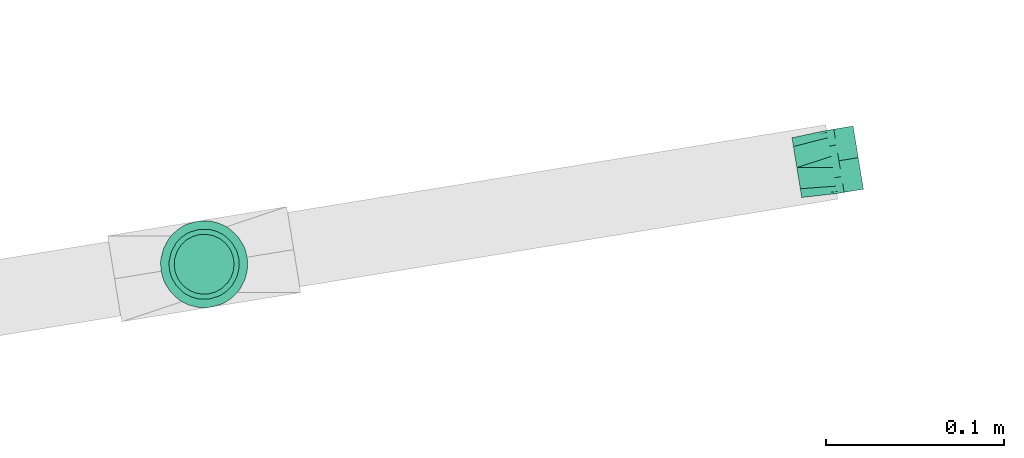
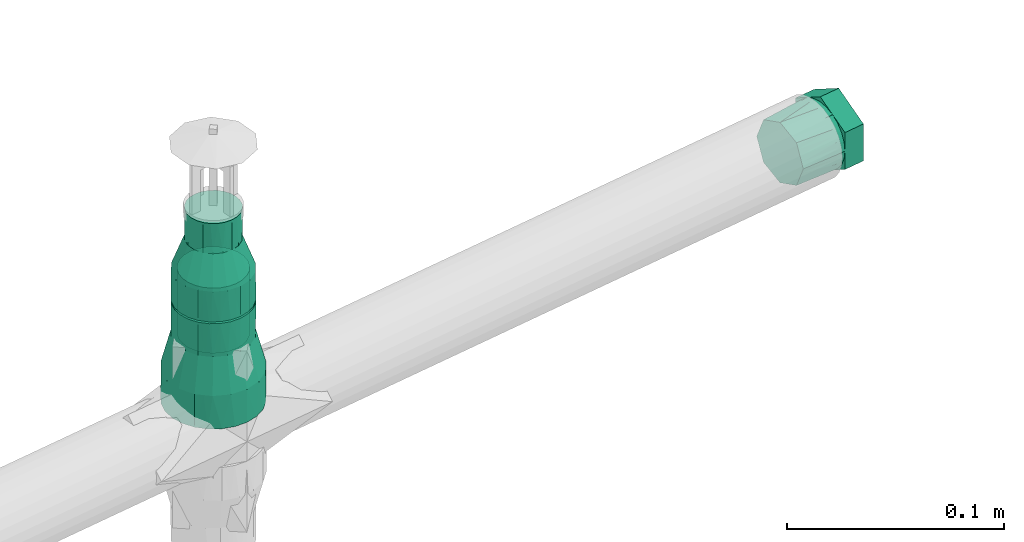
# One storey, part 39 of 46: 3 flow fittings, 1 flow segment.
"""IFC2X3 building model written with IfcOpenShell, lengths in millimetres."""

from ifc_helpers import new_model, entity, si_unit, converted_unit, derived_unit, direction, frame, origin, origin_with_axes, origin_2d_with_axis, place, context, subcontext, project, spatial, circle, extrude, faceted_brep, source, transform, mapped, material, type_object, element, save


model = new_model("IFC2X3")

# Units and contexts
model_context = context("Model", 3, precision=0.01, world=origin(), true_north=direction((6.12323399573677e-17, 1.0)))
plan_context = context("Plan", 3, precision=1e-05, world=origin_with_axes())
body_context = subcontext(model_context, "Body", "Model", "MODEL_VIEW")
ifc_project = project(units=[converted_unit("PLANEANGLEUNIT", "DEGREE", entity("IfcPositiveLengthMeasure", 0.0174532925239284), si_unit("PLANEANGLEUNIT", "RADIAN"), dimensions=[0, 0, 0, 0, 0, 0, 0]), si_unit("AREAUNIT", "SQUARE_METRE"), si_unit("LENGTHUNIT", "METRE", prefix="MILLI"), si_unit("MASSUNIT", "GRAM", prefix="KILO"), si_unit("POWERUNIT", "WATT"), si_unit("PRESSUREUNIT", "PASCAL", prefix="KILO"), si_unit("FORCEUNIT", "NEWTON", prefix="KILO"), si_unit("ELECTRICVOLTAGEUNIT", "VOLT"), si_unit("ELECTRICCURRENTUNIT", "AMPERE"), si_unit("THERMODYNAMICTEMPERATUREUNIT", "DEGREE_CELSIUS"), si_unit("TIMEUNIT", "SECOND"), si_unit("VOLUMEUNIT", "CUBIC_METRE"), derived_unit("LINEARVELOCITYUNIT", [(si_unit("LENGTHUNIT", "METRE"), 1), (si_unit("TIMEUNIT", "SECOND"), -1)]), derived_unit("VOLUMETRICFLOWRATEUNIT", [(si_unit("VOLUMEUNIT", "CUBIC_METRE"), 1), (si_unit("TIMEUNIT", "SECOND"), -1)]), derived_unit("THERMALTRANSMITTANCEUNIT", [(si_unit("POWERUNIT", "WATT"), 1), (si_unit("THERMODYNAMICTEMPERATUREUNIT", "KELVIN"), -1), (si_unit("AREAUNIT", "SQUARE_METRE"), -1)]), derived_unit("SOUNDPRESSUREUNIT", [(si_unit("PRESSUREUNIT", "PASCAL"), 1)])], contexts=[model_context, plan_context])

# Site, building, storey
site_placement = place(None, frame((-3.09682673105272e-06, 1.93776733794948e-05, 0.0), z_axis=(0.0, 0.0, 1.0), x_axis=(-0.160806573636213, 0.986985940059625, 0.0)))
site = spatial("IfcSite", under=ifc_project, at=site_placement, Name="Default", CompositionType="ELEMENT")
building_placement = place(site_placement, frame((0.0, 0.0, 0.0), z_axis=(0.0, 0.0, 1.0), x_axis=(1.0, -2.77555756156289e-17, 0.0)))
building = spatial("IfcBuilding", under=site, at=building_placement, Name="Bygning (endres i Project Information)", CompositionType="ELEMENT")
storey_placement = place(building_placement, frame((0.0, 0.0, 51360.0000000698), z_axis=(0.0, 0.0, 1.0), x_axis=(1.0, -2.77555756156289e-17, 0.0)))
storey = spatial("IfcBuildingStorey", under=building, at=storey_placement, Name="H01-Nivå D+0,36", CompositionType="ELEMENT", Elevation=51360.0000000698)

# Flow fittings
ifc_material = material(Name="3320.001")
pipe_fitting_type_1 = type_object("IfcPipeFittingType", Name="RS_53_PIF_UN_Reducing-Socket-EN10241_MC_gen:RS_53_PIF_UN_Reducing-Socket-EN10241_MC_gen", PredefinedType="NOTDEFINED", material=ifc_material)
shared_shape_1 = source(origin(), body_context, "Body", "Brep", [
    faceted_brep([(0.0, 0.0, 24.5), (0.0, 6.34106660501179, 23.6651827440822), (0.0, 12.25, 21.2176223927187), (0.0, 17.3241161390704, 17.3241161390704), (0.0, 21.2176223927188, 12.25), (0.0, 23.6651827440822, 6.34106660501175), (0.0, 24.5, 0.0), (0.0, 23.6651827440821, -6.34106660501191), (0.0, 21.2176223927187, -12.2500000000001), (0.0, 17.3241161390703, -17.3241161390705), (0.0, 12.2499999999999, -21.2176223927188), (0.0, 6.34106660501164, -23.6651827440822), (0.0, 0.0, -24.5), (0.0, -6.34106660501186, -23.6651827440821), (0.0, -12.2500000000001, -21.2176223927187), (0.0, -17.3241161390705, -17.3241161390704), (0.0, -21.2176223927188, -12.2499999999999), (0.0, -23.6651827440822, -6.34106660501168), (0.0, -24.5, 0.0), (0.0, -23.6651827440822, 6.34106660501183), (0.0, -21.2176223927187, 12.2500000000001), (0.0, -17.3241161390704, 17.3241161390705), (0.0, -12.25, 21.2176223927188), (0.0, -6.34106660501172, 23.6651827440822), (18.6666666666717, -8.25137606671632, -22.6729794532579), (18.6666666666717, -18.7677686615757, -15.7486780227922), (18.6666666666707, -20.8950763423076, -12.0642027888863), (18.6666666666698, -23.0223840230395, -8.37972755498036), (18.6666666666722, -12.2493529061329, -21.2179959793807), (18.6666666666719, -15.5085607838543, -18.4833370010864), (18.6666666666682, -23.7125607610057, -4.46565710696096), (18.6666666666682, -23.7611920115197, -4.18986377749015), (18.6666666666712, -4.25339922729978, -24.1279629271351), (18.6666666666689, 4.25560674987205, -24.1275736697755), (18.6666666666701, 0.00110376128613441, -24.1277682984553), (18.6666666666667, -24.5, 0.0), (18.6666666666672, 8.25345045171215, -22.6722244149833), (18.6666666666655, 12.2512941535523, -21.2168751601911), (18.6666666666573, 23.0231506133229, -8.37762113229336), (18.6666666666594, 20.8961800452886, -12.062290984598), (18.6666666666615, 18.7692094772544, -15.7469608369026), (18.6666666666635, 15.5102518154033, -18.4819179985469), (18.6666666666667, 24.5, 0.0), (18.6666666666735, 18.7692094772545, 15.7469608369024), (18.666666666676, 20.8961800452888, 12.0622909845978), (18.6666666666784, 23.023150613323, 8.3776211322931), (18.6666666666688, 12.2512941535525, 21.216875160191), (18.6666666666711, 15.5102518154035, 18.4819179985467), (18.6666666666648, 4.25560674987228, 24.1275736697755), (18.6666666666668, 8.25345045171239, 22.6722244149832), (18.6666666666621, -4.25339922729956, 24.1279629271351), (18.6666666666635, 0.00110376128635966, 24.1277682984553), (18.6666666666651, -23.7611920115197, 4.1898637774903), (18.6666666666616, -8.25137606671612, 22.672979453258), (18.666666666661, -12.2493529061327, 21.2179959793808), (18.6666666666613, -15.5085607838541, 18.4833370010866), (18.6666666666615, -18.7677686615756, 15.7486780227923), (18.6666666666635, -23.0223840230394, 8.37972755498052), (18.6666666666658, -23.7125607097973, 4.46565739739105), (18.6666666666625, -20.8950763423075, 12.0642027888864), (37.3333333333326, 19.750000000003, 0.0), (37.3333333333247, 18.5595959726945, -6.75306577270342), (37.3333333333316, 9.87626627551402, -17.1032705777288), (37.3333333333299, 12.5033702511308, -14.8985095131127), (37.3333333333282, 15.1304742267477, -12.6937484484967), (37.3333333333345, 3.43075149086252, -19.4497414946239), (37.333333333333, 6.65350888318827, -18.2765060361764), (37.3333333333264, 16.8450350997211, -9.72340711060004), (37.3333333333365, -3.42859151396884, -19.4501223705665), (37.3333333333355, 0.00107998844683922, -19.4499319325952), (37.3333333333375, -9.87436684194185, -17.1043672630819), (37.333333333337, -6.65147917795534, -18.2772448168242), (37.3333333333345, -19.1544229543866, -3.37756341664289), (37.3333333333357, -18.558845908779, -6.75512683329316), (37.3333333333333, -19.7499999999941, 0.0), (37.3333333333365, -16.8439551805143, -9.72527774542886), (37.3333333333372, -15.1290644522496, -12.6954286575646), (37.3333333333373, -12.5017156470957, -14.8998979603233), (37.3333333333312, -18.5588459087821, 6.755126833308), (37.3333333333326, -19.1544229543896, 3.37756341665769), (37.3333333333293, -15.1290644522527, 12.6954286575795), (37.3333333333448, 18.559595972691, 6.75306577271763), (37.3333333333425, 16.8450350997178, 9.72340711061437), (37.3333333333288, -9.87436684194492, 17.104367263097), (37.3333333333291, -12.5017156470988, 14.8998979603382), (37.3333333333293, -6.65147917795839, 18.2772448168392), (37.3333333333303, -16.8439551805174, 9.72527774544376), (37.333333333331, 0.00107998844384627, 19.4499319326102), (37.3333333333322, 3.43075149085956, 19.4497414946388), (37.3333333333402, 15.1304742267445, 12.6937484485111), (37.333333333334, 6.65350888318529, 18.2765060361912), (37.3333333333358, 9.87626627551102, 17.1032705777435), (37.333333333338, 12.5033702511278, 14.8985095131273), (37.3333333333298, -3.42859151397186, 19.4501223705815), (56.0, 5.11167614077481, -19.0770350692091), (56.0, 9.87500000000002, -17.1040017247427), (56.0, 13.9653589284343, -13.9653589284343), (56.0, 17.1040017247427, -9.87499999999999), (56.0, 19.0770350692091, -5.11167614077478), (56.0, 19.75, 0.0), (56.0, 19.0770350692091, 5.1116761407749), (56.0, 17.1040017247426, 9.8750000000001), (56.0, 13.9653589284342, 13.9653589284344), (56.0, 9.87499999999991, 17.1040017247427), (56.0, 5.11167614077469, 19.0770350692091), (56.0, 0.0, 19.75), (56.0, -5.11167614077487, 19.0770350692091), (56.0, -9.87500000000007, 17.1040017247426), (56.0, -13.9653589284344, 13.9653589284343), (56.0, -17.1040017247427, 9.87499999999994), (56.0, -19.0770350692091, 5.11167614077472), (56.0, -19.75, 0.0), (56.0, -19.0770350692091, -5.11167614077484), (56.0, -17.1040017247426, -9.87500000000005), (56.0, -13.9653589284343, -13.9653589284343), (56.0, -9.87499999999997, -17.1040017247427), (56.0, -5.11167614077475, -19.0770350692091), (56.0, 0.0, -19.75)], [[[0, 1, 2, 3, 4, 5, 6, 7, 8, 9, 10, 11, 12, 13, 14, 15, 16, 17, 18, 19, 20, 21, 22, 23]], [[24, 14, 13]], [[16, 15, 25]], [[16, 25, 26, 27]], [[28, 29, 14]], [[17, 27, 30, 31]], [[31, 18, 17]], [[16, 27, 17]], [[13, 32, 24]], [[25, 15, 29]], [[12, 33, 34, 32]], [[24, 28, 14]], [[14, 29, 15]], [[31, 35, 18]], [[33, 12, 11]], [[36, 10, 37]], [[8, 38, 39, 40]], [[10, 36, 11]], [[8, 7, 38]], [[9, 40, 41]], [[33, 11, 36]], [[8, 40, 9]], [[41, 37, 10]], [[7, 42, 38]], [[7, 6, 42]], [[12, 32, 13]], [[41, 10, 9]], [[42, 6, 5]], [[4, 3, 43]], [[4, 43, 44, 45]], [[46, 47, 2]], [[45, 42, 5]], [[1, 48, 49]], [[43, 3, 47]], [[0, 50, 51, 48]], [[2, 47, 3]], [[50, 0, 23]], [[0, 48, 1]], [[18, 52, 19]], [[53, 22, 54]], [[49, 2, 1]], [[55, 22, 21]], [[35, 52, 18]], [[4, 45, 5]], [[22, 53, 23]], [[21, 56, 55]], [[50, 23, 53]], [[49, 46, 2]], [[20, 56, 21]], [[57, 20, 19]], [[19, 52, 58, 57]], [[55, 54, 22]], [[59, 56, 20, 57]], [[42, 60, 61]], [[41, 62, 37]], [[63, 40, 64]], [[40, 39, 64]], [[33, 36, 65]], [[65, 36, 66]], [[38, 42, 61]], [[64, 39, 67]], [[41, 40, 63]], [[36, 37, 66]], [[62, 41, 63]], [[38, 67, 39]], [[68, 34, 69]], [[68, 32, 34]], [[24, 70, 28]], [[32, 68, 71]], [[72, 35, 31, 30]], [[73, 27, 26]], [[72, 74, 35]], [[26, 75, 73]], [[76, 25, 29]], [[29, 77, 76]], [[70, 24, 71]], [[24, 32, 71]], [[70, 77, 28]], [[76, 75, 25]], [[28, 77, 29]], [[25, 75, 26]], [[73, 30, 27]], [[30, 73, 72]], [[66, 37, 62]], [[69, 34, 33]], [[69, 33, 65]], [[67, 38, 61]], [[78, 58, 79]], [[80, 55, 56]], [[81, 45, 82]], [[78, 59, 57]], [[83, 53, 54]], [[55, 80, 84]], [[79, 58, 52, 35]], [[78, 57, 58]], [[84, 54, 55]], [[85, 50, 53]], [[79, 35, 74]], [[86, 56, 59]], [[84, 83, 54]], [[48, 87, 88]], [[49, 48, 88]], [[59, 78, 86]], [[53, 83, 85]], [[87, 48, 51]], [[81, 60, 42]], [[44, 43, 89]], [[90, 46, 49]], [[47, 46, 91]], [[86, 80, 56]], [[82, 45, 44]], [[49, 88, 90]], [[92, 43, 47]], [[91, 46, 90]], [[51, 50, 93]], [[42, 45, 81]], [[85, 93, 50]], [[44, 89, 82]], [[51, 93, 87]], [[47, 91, 92]], [[89, 43, 92]], [[94, 95, 96, 97, 98, 99, 100, 101, 102, 103, 104, 105, 106, 107, 108, 109, 110, 111, 112, 113, 114, 115, 116, 117]], [[60, 99, 98]], [[97, 96, 64]], [[97, 64, 67, 61]], [[62, 63, 95]], [[61, 60, 98]], [[94, 65, 66]], [[64, 96, 63]], [[117, 68, 69, 65]], [[95, 63, 96]], [[117, 116, 68]], [[77, 70, 115]], [[66, 95, 94]], [[115, 70, 71]], [[113, 112, 73]], [[115, 71, 116]], [[117, 65, 94]], [[97, 61, 98]], [[72, 111, 74]], [[71, 68, 116]], [[113, 76, 114]], [[114, 76, 77]], [[77, 115, 114]], [[113, 73, 75, 76]], [[111, 72, 112]], [[66, 62, 95]], [[72, 73, 112]], [[85, 107, 106]], [[109, 108, 80]], [[109, 80, 86, 78]], [[83, 84, 107]], [[110, 78, 79]], [[79, 111, 110]], [[109, 78, 110]], [[106, 93, 85]], [[80, 108, 84]], [[105, 88, 87, 93]], [[85, 83, 107]], [[107, 84, 108]], [[79, 74, 111]], [[88, 105, 104]], [[90, 103, 91]], [[101, 81, 82, 89]], [[103, 90, 104]], [[101, 100, 81]], [[102, 89, 92]], [[88, 104, 90]], [[101, 89, 102]], [[92, 91, 103]], [[100, 60, 81]], [[100, 99, 60]], [[105, 93, 106]], [[92, 103, 102]]]),
])
flow_fitting_1_placement = place(storey_placement, frame((1006288.36764383, -355017.329195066, 3310.93333333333), z_axis=(-2.77555756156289e-17, -1.0, 0.0), x_axis=(0.0, 0.0, 1.0)))
element("IfcFlowFitting", 1, at=flow_fitting_1_placement, inside=storey, type_object=pipe_fitting_type_1, material=ifc_material, Name="RS_53_PIF_UN_Reducing-Socket-EN10241_MC_gen:RS_53_PIF_UN_Reducing-Socket-EN10241_MC_gen", ObjectType="RS_53_PIF_UN_Reducing-Socket-EN10241_MC_gen:RS_53_PIF_UN_Reducing-Socket-EN10241_MC_gen", context=body_context, shape_type="MappedRepresentation", body=[
    mapped(shared_shape_1, transform((0.0, 0.0, 0.0), scale=1.0)),
])
pipe_fitting_type_2 = type_object("IfcPipeFittingType", Name="RS_53_PIF_UN_Reducing-Socket-EN10241_MC_gen:RS_53_PIF_UN_Reducing-Socket-EN10241_MC_gen", PredefinedType="NOTDEFINED", material=ifc_material)
shared_shape_2 = source(origin(), body_context, "Body", "Brep", [
    faceted_brep([(0.0, 0.0, 13.5), (0.0, 3.49405710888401, 13.0399986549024), (0.0, 6.74999999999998, 11.6913429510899), (0.0, 9.54594154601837, 9.54594154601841), (0.0, 11.6913429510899, 6.75000000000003), (0.0, 13.0399986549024, 3.49405710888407), (0.0, 13.5, 0.0), (0.0, 13.0399986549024, -3.49405710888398), (0.0, 11.6913429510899, -6.74999999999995), (0.0, 9.54594154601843, -9.54594154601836), (0.0, 6.75000000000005, -11.6913429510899), (0.0, 3.49405710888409, -13.0399986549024), (0.0, 0.0, -13.5), (0.0, -3.49405710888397, -13.0399986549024), (0.0, -6.74999999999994, -11.69134295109), (0.0, -9.54594154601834, -9.54594154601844), (0.0, -11.6913429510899, -6.75000000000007), (0.0, -13.0399986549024, -3.49405710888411), (0.0, -13.5, 0.0), (0.0, -13.0399986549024, 3.49405710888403), (0.0, -11.6913429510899, 6.74999999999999), (0.0, -9.5459415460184, 9.54594154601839), (0.0, -6.75000000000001, 11.6913429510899), (0.0, -3.49405710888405, 13.0399986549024), (17.0, 4.54589529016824, -12.4935366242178), (17.0, 10.3411162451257, -8.67820919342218), (17.0, 11.5134189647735, -6.64791735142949), (17.0, 12.6857216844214, -4.61762550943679), (17.0, 8.54506932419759, -10.1850582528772), (17.0, 6.74902240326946, -11.6919073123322), (17.0, 13.0928608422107, -2.30881275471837), (17.0, 13.5, 0.0), (17.0, 2.34276817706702, -13.2951659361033), (17.0, -0.00166747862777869, -13.2948718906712), (17.0, -2.34610313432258, -13.2945778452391), (17.0, -8.54762393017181, -10.1829144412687), (17.0, -6.75195505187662, -11.6902139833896), (17.0, -4.5490290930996, -12.4923959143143), (17.0, -11.5150862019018, -6.6450290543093), (17.0, -12.6868795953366, -4.61444320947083), (17.0, -10.343292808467, -8.67561489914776), (17.0, -13.5, 0.0), (17.0, -10.3432928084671, 8.67561489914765), (17.0, -11.5150862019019, 6.64502905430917), (17.0, -12.6868795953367, 4.61444320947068), (17.0, -8.54762393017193, 10.1829144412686), (17.0, -6.75195505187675, 11.6902139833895), (17.0, -4.54902909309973, 12.4923959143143), (17.0, -2.34610313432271, 13.2945778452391), (17.0, -0.00166747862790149, 13.2948718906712), (17.0, 2.3427681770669, 13.2951659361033), (17.0, 12.6857216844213, 4.61762550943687), (17.0, 8.5450693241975, 10.1850582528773), (17.0, 13.0928608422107, 2.30881275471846), (17.0, 11.5134189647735, 6.64791735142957), (17.0, 10.3411162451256, 8.67820919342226), (17.0, 4.54589529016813, 12.4935366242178), (17.0, 6.74902240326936, 11.6919073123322), (34.0, 18.5588149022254, -6.75521201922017), (34.0, -18.5598439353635, -6.75238425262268), (34.0, 9.87413131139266, -17.104503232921), (34.0, -0.00148173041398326, -19.4499240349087), (34.0, 3.42823440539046, -19.4501853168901), (34.0, 6.65118285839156, -18.2773442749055), (34.0, 15.1289479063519, -12.6955675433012), (34.0, 12.5015396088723, -14.9000353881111), (34.0, 16.8438814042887, -9.72538978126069), (34.0, 19.1648351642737, -3.3184704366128), (34.0, -9.87673730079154, -17.1029985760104), (34.0, -15.1308820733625, -12.6932622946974), (34.0, -3.43119786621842, -19.4496627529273), (34.0, -6.65396758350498, -18.2763306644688), (34.0, -16.845363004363, -9.72282327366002), (34.0, -12.503809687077, -14.8981304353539), (34.0, -19.7500000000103, 0.0), (34.0, 19.7499999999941, 0.0), (34.0, 19.1544074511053, 3.37760600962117), (34.0, 6.65118285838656, 18.2773442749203), (34.0, 12.5015396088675, 14.9000353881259), (34.0, -6.65396758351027, 18.2763306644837), (34.0, -3.43119786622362, 19.4496627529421), (34.0, -12.5038096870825, 14.8981304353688), (34.0, -9.87673730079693, 17.1029985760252), (34.0, -15.1308820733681, 12.6932622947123), (34.0, -16.8453630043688, 9.72282327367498), (34.0, -18.5598439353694, 6.75238425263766), (34.0, 16.843881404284, 9.7253897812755), (34.0, 18.5588149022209, 6.75521201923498), (34.0, -0.00148173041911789, 19.4499240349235), (34.0, 3.42823440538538, 19.4501853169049), (34.0, 9.87413131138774, 17.1045032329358), (34.0, 15.1289479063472, 12.695567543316), (51.0, 0.0, -19.75), (51.0, 5.11167614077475, -19.0770350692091), (51.0, 9.87499999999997, -17.1040017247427), (51.0, 13.9653589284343, -13.9653589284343), (51.0, 17.1040017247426, -9.87500000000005), (51.0, 19.0770350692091, -5.11167614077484), (51.0, 19.75, 0.0), (51.0, 19.0770350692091, 5.11167614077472), (51.0, 17.1040017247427, 9.87499999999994), (51.0, 13.9653589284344, 13.9653589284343), (51.0, 9.87500000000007, 17.1040017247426), (51.0, 5.11167614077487, 19.0770350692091), (51.0, 0.0, 19.75), (51.0, -5.11167614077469, 19.0770350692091), (51.0, -9.87499999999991, 17.1040017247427), (51.0, -13.9653589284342, 13.9653589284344), (51.0, -17.1040017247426, 9.8750000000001), (51.0, -19.0770350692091, 5.1116761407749), (51.0, -19.75, 0.0), (51.0, -19.0770350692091, -5.11167614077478), (51.0, -17.1040017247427, -9.87499999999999), (51.0, -13.9653589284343, -13.9653589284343), (51.0, -9.87500000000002, -17.1040017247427), (51.0, -5.11167614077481, -19.0770350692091)], [[[0, 1, 2, 3, 4, 5, 6, 7, 8, 9, 10, 11, 12, 13, 14, 15, 16, 17, 18, 19, 20, 21, 22, 23]], [[11, 10, 24]], [[25, 9, 8]], [[26, 25, 8, 27]], [[10, 28, 29]], [[30, 27, 7]], [[6, 31, 30]], [[7, 6, 30]], [[24, 32, 11]], [[28, 9, 25]], [[33, 34, 12, 32]], [[15, 14, 35]], [[9, 28, 10]], [[10, 29, 24]], [[13, 12, 34]], [[36, 14, 37]], [[38, 39, 16, 40]], [[13, 37, 14]], [[39, 17, 16]], [[35, 40, 15]], [[37, 13, 34]], [[11, 32, 12]], [[15, 40, 16]], [[39, 41, 17]], [[7, 27, 8]], [[41, 18, 17]], [[14, 36, 35]], [[19, 18, 41]], [[42, 21, 20]], [[43, 42, 20, 44]], [[22, 45, 46]], [[19, 41, 44]], [[47, 48, 23]], [[45, 21, 42]], [[49, 50, 0, 48]], [[21, 45, 22]], [[23, 22, 47]], [[22, 46, 47]], [[19, 44, 20]], [[0, 50, 1]], [[51, 5, 4]], [[3, 2, 52]], [[5, 53, 6]], [[54, 51, 4, 55]], [[53, 31, 6]], [[1, 50, 56]], [[56, 57, 2]], [[3, 55, 4]], [[1, 56, 2]], [[52, 55, 3]], [[23, 48, 0]], [[5, 51, 53]], [[2, 57, 52]], [[27, 30, 58]], [[38, 59, 39]], [[28, 60, 29]], [[61, 32, 62]], [[29, 60, 63]], [[25, 64, 65]], [[28, 25, 65]], [[27, 58, 66]], [[26, 27, 66]], [[30, 31, 67]], [[66, 64, 26]], [[33, 32, 61]], [[26, 64, 25]], [[37, 68, 36]], [[65, 60, 28]], [[35, 69, 40]], [[70, 34, 33]], [[34, 70, 71]], [[37, 34, 71]], [[61, 70, 33]], [[40, 69, 72]], [[36, 68, 73]], [[41, 39, 74]], [[75, 67, 31]], [[72, 59, 38]], [[24, 62, 32]], [[73, 69, 35]], [[39, 59, 74]], [[30, 67, 58]], [[24, 29, 63]], [[63, 62, 24]], [[35, 36, 73]], [[71, 68, 37]], [[38, 40, 72]], [[74, 44, 41]], [[53, 76, 31]], [[56, 77, 57]], [[52, 78, 55]], [[79, 80, 48]], [[81, 82, 46]], [[42, 83, 45]], [[84, 83, 42]], [[44, 85, 43]], [[85, 44, 74]], [[83, 81, 45]], [[43, 85, 84]], [[54, 86, 51]], [[53, 51, 87]], [[79, 47, 82]], [[46, 82, 47]], [[88, 89, 50]], [[90, 57, 77]], [[50, 89, 56]], [[48, 80, 49]], [[87, 51, 86]], [[91, 55, 78]], [[31, 76, 75]], [[47, 79, 48]], [[56, 89, 77]], [[49, 88, 50]], [[54, 91, 86]], [[87, 76, 53]], [[45, 81, 46]], [[78, 52, 90]], [[43, 84, 42]], [[57, 90, 52]], [[80, 88, 49]], [[55, 91, 54]], [[92, 93, 94, 95, 96, 97, 98, 99, 100, 101, 102, 103, 104, 105, 106, 107, 108, 109, 110, 111, 112, 113, 114, 115]], [[111, 110, 74]], [[69, 113, 112]], [[72, 69, 112, 59]], [[114, 73, 68]], [[111, 74, 59]], [[71, 70, 115]], [[73, 113, 69]], [[61, 62, 92, 70]], [[113, 73, 114]], [[93, 92, 62]], [[95, 64, 96]], [[60, 94, 63]], [[111, 59, 112]], [[114, 68, 71]], [[94, 60, 65]], [[67, 75, 98]], [[93, 63, 94]], [[65, 64, 95]], [[63, 93, 62]], [[115, 114, 71]], [[97, 67, 98]], [[97, 96, 58]], [[58, 67, 97]], [[95, 94, 65]], [[96, 64, 66, 58]], [[115, 70, 92]], [[103, 102, 77]], [[91, 101, 100]], [[86, 91, 100, 87]], [[102, 78, 90]], [[76, 87, 99]], [[99, 98, 76]], [[99, 87, 100]], [[77, 89, 103]], [[78, 101, 91]], [[88, 80, 104, 89]], [[102, 90, 77]], [[101, 78, 102]], [[98, 75, 76]], [[105, 104, 80]], [[82, 106, 79]], [[84, 85, 108, 83]], [[105, 79, 106]], [[85, 109, 108]], [[81, 83, 107]], [[79, 105, 80]], [[107, 83, 108]], [[106, 82, 81]], [[85, 74, 109]], [[74, 110, 109]], [[103, 89, 104]], [[107, 106, 81]]]),
])
flow_fitting_2_placement = place(storey_placement, frame((1006288.36764383, -355017.329195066, 3418.99999993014), z_axis=(2.77555756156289e-17, 1.0, 0.0), x_axis=(0.0, 0.0, -1.0)))
element("IfcFlowFitting", 2, at=flow_fitting_2_placement, inside=storey, type_object=pipe_fitting_type_2, material=ifc_material, Name="RS_53_PIF_UN_Reducing-Socket-EN10241_MC_gen:RS_53_PIF_UN_Reducing-Socket-EN10241_MC_gen", ObjectType="RS_53_PIF_UN_Reducing-Socket-EN10241_MC_gen:RS_53_PIF_UN_Reducing-Socket-EN10241_MC_gen", context=body_context, shape_type="MappedRepresentation", body=[
    mapped(shared_shape_2, transform((0.0, 0.0, 0.0), scale=1.0)),
])
pipe_fitting_type_3 = type_object("IfcPipeFittingType", Name="RS_53_PIF_UN_Hexagon-Plug-EN10241_MC_gen:RS_53_PIF_UN_Hexagon-Plug-EN10241_MC_gen", PredefinedType="NOTDEFINED", material=ifc_material)
shared_shape_3 = source(origin(), body_context, "Body", "Brep", [
    faceted_brep([(24.0, -12.7279220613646, 12.7279220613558), (24.0, -15.5884572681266, 9.0), (24.0, -17.3866648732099, 4.65874281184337), (24.0, -18.0, 0.0), (24.0, -18.0, 10.3923048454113), (24.0, -9.0, 15.5884572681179), (24.0, 9.0, 15.5884572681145), (24.0, 4.65874281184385, 17.3866648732), (24.0, 0.0, 18.0), (24.0, -4.65874281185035, 17.3866648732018), (24.0, 0.0, 20.7846096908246), (24.0, 18.0, 0.0), (24.0, 18.0, -10.3923048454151), (24.0, 9.0, -15.5884572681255), (24.0, 12.7279220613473, -12.7279220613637), (24.0, 15.5884572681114, -9.0), (24.0, 17.3866648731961, -4.65874281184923), (24.0, 4.65874281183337, -17.3866648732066), (24.0, 0.0, -20.7846096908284), (24.0, -9.0, -15.5884572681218), (24.0, -4.65874281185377, -17.3866648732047), (24.0, 0.0, -18.0), (24.0, -17.3866648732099, -4.65874281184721), (24.0, -15.5884572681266, -9.0), (24.0, -12.7279220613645, -12.7279220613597), (24.0, -18.0, -10.3923048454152), (24.0, 18.0, 10.3923048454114), (24.0, 17.3866648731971, 4.65874281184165), (24.0, 15.5884572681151, 9.0), (24.0, 12.7279220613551, 12.7279220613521), (0.0, -12.0208152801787, -12.0208152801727), (0.0, -13.2656114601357, -9.01561146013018), (0.0, -14.5104076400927, -6.01040764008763), (0.0, -15.7552038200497, -3.00520382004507), (0.0, -17.0, 0.0), (0.0, -15.755203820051, 3.00520382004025), (0.0, -14.5104076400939, 6.01040764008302), (0.0, -13.2656114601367, 9.01561146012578), (0.0, -12.0208152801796, 12.0208152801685), (0.0, -9.01561146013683, 13.2656114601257), (0.0, -6.01040764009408, 14.5104076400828), (0.0, -3.00520382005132, 15.7552038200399), (0.0, 0.0, 17.0), (0.0, 3.00520382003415, 15.7552038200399), (0.0, 6.01040764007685, 14.5104076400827), (0.0, 9.01561146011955, 13.2656114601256), (0.0, 12.0208152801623, 12.0208152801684), (0.0, 13.2656114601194, 9.01561146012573), (0.0, 14.5104076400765, 6.01040764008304), (0.0, 15.7552038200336, 3.00520382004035), (0.0, 17.0, 0.0), (0.0, 15.7552038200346, -3.00520382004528), (0.0, 14.5104076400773, -6.0104076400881), (0.0, 13.2656114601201, -9.01561146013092), (0.0, 12.0208152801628, -12.0208152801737), (0.0, 9.01561146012, -13.2656114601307), (0.0, 6.01040764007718, -14.5104076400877), (0.0, 3.00520382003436, -15.7552038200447), (0.0, 0.0, -17.0), (0.0, -3.00520382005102, -15.7552038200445), (0.0, -6.01040764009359, -14.5104076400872), (0.0, -9.01561146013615, -13.26561146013), (19.9200000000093, -15.3516170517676, -8.86329487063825), (19.9200000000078, -16.9144602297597, -6.15638165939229), (19.9200000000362, 15.3517070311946, -8.8631390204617), (19.9200000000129, -11.3943605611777, -13.5793479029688), (19.920000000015, -8.99994724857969, -15.5884877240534), (19.9200000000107, -13.7887738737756, -11.5702080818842), (19.9200000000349, 13.7888913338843, -11.5700680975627), (19.920000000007, -17.5031274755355, -2.81789482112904), (19.9200000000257, 3.12576717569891, -17.7265219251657), (19.9200000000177, -6.06276723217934, -16.6575206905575), (19.9200000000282, 6.06293633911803, -16.6574591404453), (19.9200000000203, -3.12558721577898, -17.7265536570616), (19.920000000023, 8.99799599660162e-05, -17.7265377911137), (19.9200000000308, 9.00010550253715, -15.588396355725), (19.9200000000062, 18.0, 0.0), (19.9200000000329, 11.3944984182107, -13.5792322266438), (19.9200000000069, -17.4572301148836, -3.07819082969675), (19.9200000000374, 16.9145227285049, -6.15620994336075), (19.9200000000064, -18.0, 0.0), (19.9200000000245, 15.3517070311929, 8.86313902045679), (19.9200000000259, 16.9145227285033, 6.15620994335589), (19.9200000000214, 11.394498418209, 13.5792322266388), (19.9200000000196, 9.00010550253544, 15.58839635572), (19.9200000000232, 13.7888913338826, 11.5700680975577), (19.9200000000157, 3.12576717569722, 17.7265219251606), (19.9200000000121, -3.1255872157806, 17.7265536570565), (19.9200000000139, 8.99799583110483e-05, 17.7265377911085), (19.9200000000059, -16.9144602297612, 6.15638165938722), (19.9200000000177, 6.06293633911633, 16.6574591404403), (19.9200000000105, -6.06276723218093, 16.6575206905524), (19.920000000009, -8.99994724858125, 15.5884877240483), (19.9200000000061, -17.4572301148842, 3.07819082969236), (19.9200000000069, -13.7887738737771, 11.5702080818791), (19.9200000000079, -11.3943605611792, 13.5793479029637), (19.9200000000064, -15.3516170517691, 8.86329487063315), (35.0, -18.0, -10.3923048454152), (35.0, 0.0, -20.7846096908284), (35.0, 18.0, -10.3923048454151), (35.0, 18.0, 10.3923048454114), (35.0, 0.0, 20.7846096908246), (35.0, -18.0, 10.3923048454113)], [[[0, 1, 2, 3, 4, 5]], [[6, 7, 8, 9, 5, 10]], [[11, 12, 13, 14, 15, 16]], [[17, 13, 18, 19, 20, 21]], [[3, 22, 23, 24, 19, 25]], [[26, 11, 27, 28, 29, 6]], [[30, 31, 32, 33, 34, 35, 36, 37, 38, 39, 40, 41, 42, 43, 44, 45, 46, 47, 48, 49, 50, 51, 52, 53, 54, 55, 56, 57, 58, 59, 60, 61]], [[62, 63, 32]], [[52, 64, 53]], [[65, 61, 66]], [[30, 65, 67]], [[31, 67, 62]], [[63, 33, 32]], [[53, 68, 54]], [[69, 34, 33]], [[70, 58, 57]], [[71, 66, 60]], [[56, 72, 57]], [[62, 32, 31]], [[71, 59, 73]], [[73, 58, 70, 74]], [[56, 75, 72]], [[70, 57, 72]], [[75, 56, 55]], [[50, 76, 51]], [[59, 71, 60]], [[54, 68, 77]], [[33, 63, 78, 69]], [[51, 76, 79]], [[52, 79, 64]], [[30, 67, 31]], [[68, 53, 64]], [[79, 52, 51]], [[69, 80, 34]], [[61, 65, 30]], [[61, 60, 66]], [[59, 58, 73]], [[77, 55, 54]], [[77, 75, 55]], [[81, 82, 48]], [[81, 48, 47]], [[83, 45, 84]], [[46, 83, 85]], [[47, 85, 81]], [[86, 42, 87, 88]], [[35, 89, 36]], [[76, 49, 82]], [[87, 42, 41]], [[90, 84, 44]], [[40, 91, 41]], [[45, 83, 46]], [[90, 43, 86]], [[49, 76, 50]], [[40, 92, 91]], [[92, 40, 39]], [[34, 93, 35]], [[93, 34, 80]], [[43, 90, 44]], [[38, 94, 95]], [[93, 89, 35]], [[36, 89, 96]], [[46, 85, 47]], [[49, 48, 82]], [[94, 37, 96]], [[36, 96, 37]], [[87, 41, 91]], [[45, 44, 84]], [[43, 42, 86]], [[95, 39, 38]], [[95, 92, 39]], [[37, 94, 38]], [[78, 63, 22]], [[24, 67, 65]], [[67, 23, 63, 62]], [[73, 20, 71]], [[23, 22, 63]], [[3, 80, 69, 78]], [[65, 66, 19]], [[65, 19, 24]], [[23, 67, 24]], [[72, 75, 13]], [[72, 13, 17]], [[19, 66, 71]], [[19, 71, 20]], [[21, 20, 73]], [[17, 70, 72]], [[14, 77, 68]], [[16, 79, 76]], [[3, 78, 22]], [[79, 15, 68, 64]], [[16, 76, 11]], [[13, 77, 14]], [[21, 73, 74, 70]], [[21, 70, 17]], [[15, 14, 68]], [[75, 77, 13]], [[15, 79, 16]], [[27, 76, 82]], [[29, 85, 83]], [[85, 28, 82, 81]], [[86, 7, 90]], [[28, 27, 82]], [[27, 11, 76]], [[83, 84, 6]], [[83, 6, 29]], [[28, 85, 29]], [[91, 92, 5]], [[91, 5, 9]], [[6, 84, 90]], [[6, 90, 7]], [[8, 7, 86]], [[9, 87, 91]], [[0, 95, 94]], [[2, 89, 93]], [[89, 1, 94, 96]], [[1, 89, 2]], [[5, 95, 0]], [[8, 86, 88, 87]], [[8, 87, 9]], [[93, 80, 3]], [[1, 0, 94]], [[92, 95, 5]], [[93, 3, 2]], [[97, 98, 99, 100, 101, 102]], [[99, 98, 18, 13, 12]], [[100, 99, 12, 11, 26]], [[101, 100, 26, 6, 10]], [[102, 101, 10, 5, 4]], [[97, 102, 4, 3, 25]], [[98, 97, 25, 19, 18]]]),
])
flow_fitting_3_placement = place(storey_placement, frame((1006288.36764383, -355354.939006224, 3300.0), z_axis=(0.0, 0.0, 1.0), x_axis=(-2.77555756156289e-17, -1.0, 0.0)))
element("IfcFlowFitting", 3, at=flow_fitting_3_placement, inside=storey, type_object=pipe_fitting_type_3, material=ifc_material, Name="RS_53_PIF_UN_Hexagon-Plug-EN10241_MC_gen:RS_53_PIF_UN_Hexagon-Plug-EN10241_MC_gen", ObjectType="RS_53_PIF_UN_Hexagon-Plug-EN10241_MC_gen:RS_53_PIF_UN_Hexagon-Plug-EN10241_MC_gen", context=body_context, shape_type="MappedRepresentation", body=[
    mapped(shared_shape_3, transform((0.0, 0.0, 0.0), scale=1.0)),
])

# Flow segment
pipe_segment_type = type_object("IfcPipeSegmentType", Name="Pipe Types:Stålrør sveist og gjenget", PredefinedType="NOTDEFINED", material=ifc_material)
flow_segment_placement = place(storey_placement, frame((0.0, 0.0, 0.0), z_axis=(0.0, 0.0, 1.0), x_axis=(1.0, -2.77555756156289e-17, 0.0)))
element("IfcFlowSegment", 4, at=flow_segment_placement, inside=storey, type_object=pipe_segment_type, Name="Pipe Types:Stålrør sveist og gjenget", ObjectType="Pipe Types:Stålrør sveist og gjenget", context=body_context, shape_type="SweptSolid", body=[
    extrude(circle(Radius=16.8500004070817, at=origin_2d_with_axis()), frame((1006288.36764383, -355017.329195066, 3348.26666666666), z_axis=(0.0, 0.0, 1.0), x_axis=(-1.0, 0.0, 0.0)), (0.0, 0.0, 1.0), 36.7333332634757),
])

save(model, "model.ifc")
